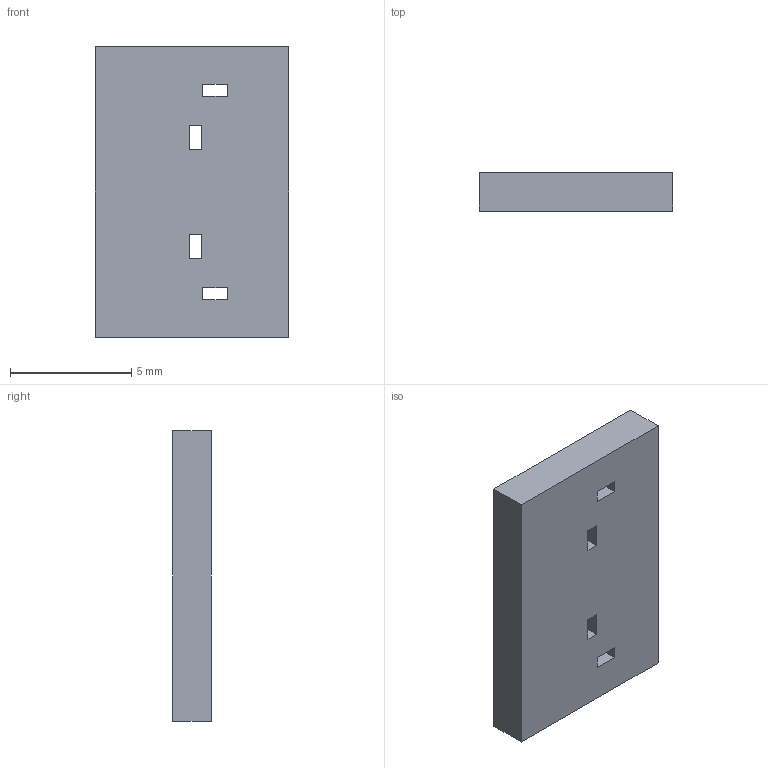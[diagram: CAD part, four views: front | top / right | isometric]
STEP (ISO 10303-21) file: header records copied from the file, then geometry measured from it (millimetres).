
FILE_DESCRIPTION(('Open CASCADE Model'),'2;1');
FILE_NAME('SWITCH_CARRIER_FR4_PTT','2026-09-06T11:49:22',('Author'),( 'Open CASCADE'),'Open CASCADE STEP processor 7.8','build123d', 'Unknown');
FILE_SCHEMA(('AUTOMOTIVE_DESIGN { 1 0 10303 214 1 1 1 1 }'));
Length unit declared in the file: millimetre
Products named in the file (2): =>[0:1:1:2]; SWITCH_CARRIER_FR4_PTT
Assembly tree (1 placements, depth 2):
  =>[0:1:1:2]
    SWITCH_CARRIER_FR4_PTT
Bounding box: 8 x 1.6 x 12 mm (x, y, z)
Volume: 150.4 mm3; surface area: 271.2 mm2
Topology: 1 solids, 1 shells, 22 faces, 60 edges, 40 vertices
Faces by surface type: plane 22
Entity records: 1508 total; most frequent: CARTESIAN_POINT 244, DIRECTION 228, LINE 180, VECTOR 180, ORIENTED_EDGE 120, PCURVE 120, DEFINITIONAL_REPRESENTATION 120, EDGE_CURVE 60
